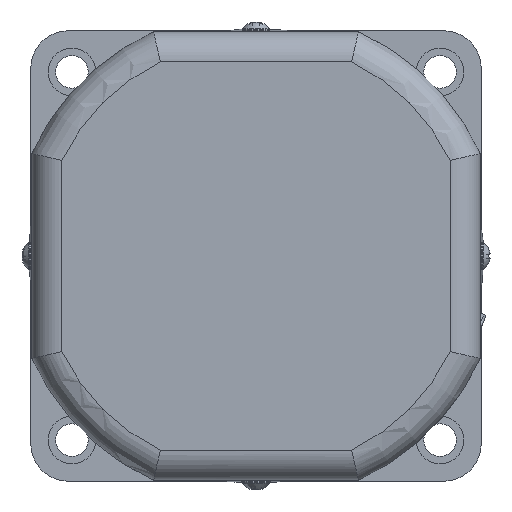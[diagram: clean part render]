
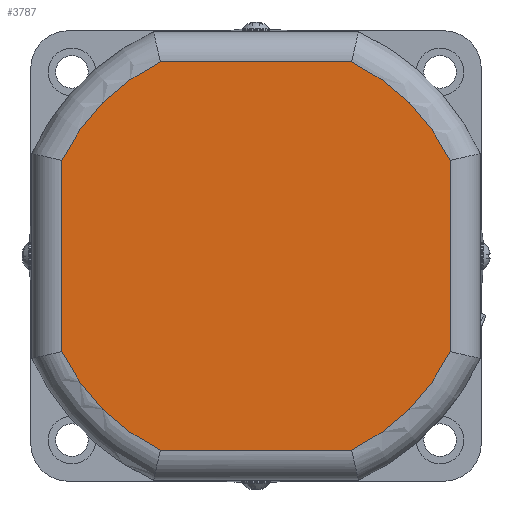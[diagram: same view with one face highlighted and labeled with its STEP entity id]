
A CAD part, left-side view. The second image highlights one B-rep face of the part: STEP entity #3787.
In plain terms, the highlighted planar face has unit normal (-1, 0, 0) as drawn and (0, 0, -1) by its records, which use the part's own axes.
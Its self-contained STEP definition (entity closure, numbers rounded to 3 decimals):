
#3120=CARTESIAN_POINT('',(38.8,-19.108,0.0));
#3121=VERTEX_POINT('',#3120);
#3148=CARTESIAN_POINT('',(19.108,-38.8,0.0));
#3149=VERTEX_POINT('',#3148);
#3167=CARTESIAN_POINT('',(0.0,0.0,0.0));
#3168=DIRECTION('',(0.0,0.0,1.0));
#3169=DIRECTION('',(0.707,-0.707,0.0));
#3170=AXIS2_PLACEMENT_3D('',#3167,#3168,#3169);
#3171=CIRCLE('',#3170,43.25);
#3172=EDGE_CURVE('',#3149,#3121,#3171,.T.);
#3184=CARTESIAN_POINT('',(-19.108,-38.8,0.0));
#3185=VERTEX_POINT('',#3184);
#3203=CARTESIAN_POINT('',(-19.108,-38.8,0.0));
#3204=DIRECTION('',(1.0,0.0,0.0));
#3205=VECTOR('',#3204,38.216);
#3206=LINE('',#3203,#3205);
#3207=EDGE_CURVE('',#3185,#3149,#3206,.T.);
#3226=CARTESIAN_POINT('',(38.8,19.108,0.0));
#3227=VERTEX_POINT('',#3226);
#3252=CARTESIAN_POINT('',(38.8,-19.108,0.0));
#3253=DIRECTION('',(0.0,1.0,0.0));
#3254=VECTOR('',#3253,38.216);
#3255=LINE('',#3252,#3254);
#3256=EDGE_CURVE('',#3121,#3227,#3255,.T.);
#3268=CARTESIAN_POINT('',(-38.8,-19.108,0.0));
#3269=VERTEX_POINT('',#3268);
#3287=CARTESIAN_POINT('',(0.0,0.0,0.0));
#3288=DIRECTION('',(0.0,0.0,1.0));
#3289=DIRECTION('',(-0.707,-0.707,0.0));
#3290=AXIS2_PLACEMENT_3D('',#3287,#3288,#3289);
#3291=CIRCLE('',#3290,43.25);
#3292=EDGE_CURVE('',#3269,#3185,#3291,.T.);
#3312=CARTESIAN_POINT('',(19.108,38.8,0.0));
#3313=VERTEX_POINT('',#3312);
#3339=CARTESIAN_POINT('',(0.0,0.0,0.0));
#3340=DIRECTION('',(0.0,0.0,1.0));
#3341=DIRECTION('',(0.707,0.707,0.0));
#3342=AXIS2_PLACEMENT_3D('',#3339,#3340,#3341);
#3343=CIRCLE('',#3342,43.25);
#3344=EDGE_CURVE('',#3227,#3313,#3343,.T.);
#3356=CARTESIAN_POINT('',(-38.8,19.108,0.0));
#3357=VERTEX_POINT('',#3356);
#3375=CARTESIAN_POINT('',(-38.8,19.108,0.0));
#3376=DIRECTION('',(0.0,-1.0,0.0));
#3377=VECTOR('',#3376,38.216);
#3378=LINE('',#3375,#3377);
#3379=EDGE_CURVE('',#3357,#3269,#3378,.T.);
#3396=CARTESIAN_POINT('',(-19.108,38.8,0.0));
#3397=VERTEX_POINT('',#3396);
#3424=CARTESIAN_POINT('',(19.108,38.8,0.0));
#3425=DIRECTION('',(-1.0,0.0,0.0));
#3426=VECTOR('',#3425,38.216);
#3427=LINE('',#3424,#3426);
#3428=EDGE_CURVE('',#3313,#3397,#3427,.T.);
#3439=CARTESIAN_POINT('',(0.0,0.0,0.0));
#3440=DIRECTION('',(0.0,0.0,1.0));
#3441=DIRECTION('',(-0.707,0.707,0.0));
#3442=AXIS2_PLACEMENT_3D('',#3439,#3440,#3441);
#3443=CIRCLE('',#3442,43.25);
#3444=EDGE_CURVE('',#3397,#3357,#3443,.T.);
#3772=CARTESIAN_POINT('',(0.,0.0,0.0));
#3773=DIRECTION('',(0.0,0.0,1.0));
#3774=DIRECTION('',(1.0,0.0,0.0));
#3775=AXIS2_PLACEMENT_3D('',#3772,#3773,#3774);
#3776=PLANE('',#3775);
#3777=ORIENTED_EDGE('',*,*,#3428,.F.);
#3778=ORIENTED_EDGE('',*,*,#3344,.F.);
#3779=ORIENTED_EDGE('',*,*,#3256,.F.);
#3780=ORIENTED_EDGE('',*,*,#3172,.F.);
#3781=ORIENTED_EDGE('',*,*,#3207,.F.);
#3782=ORIENTED_EDGE('',*,*,#3292,.F.);
#3783=ORIENTED_EDGE('',*,*,#3379,.F.);
#3784=ORIENTED_EDGE('',*,*,#3444,.F.);
#3785=EDGE_LOOP('',(#3777,#3778,#3779,#3780,#3781,#3782,#3783,#3784));
#3786=FACE_OUTER_BOUND('',#3785,.T.);
#3787=ADVANCED_FACE('',(#3786),#3776,.F.);
